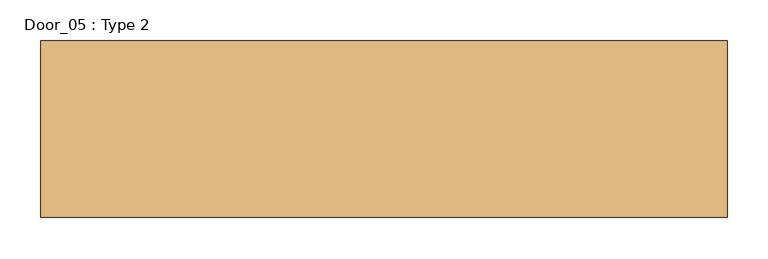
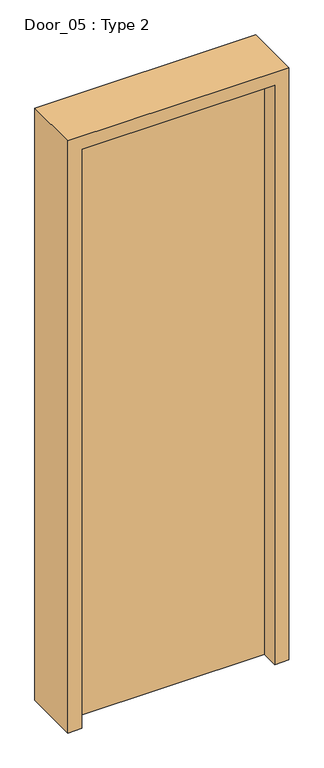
"""IFC4 building model written with IfcOpenShell, lengths in millimetres: door geometry, Door_05 : Type 2."""

from ifc_helpers import new_model, si_unit, frame, origin, origin_with_axes, place, context, project, spatial, polyline, outline, extrude, source, transform, mapped, element, save


def door_05_type_2_e75293e1(model_context):
    return source(origin(), model_context, "Body", "SweptSolid", [
        extrude(outline(polyline([(366.5087813, -40.9955629), (-366.5087813, -40.9955629), (-366.5087813, 9.0044371), (366.5087813, 9.0044371), (366.5087813, -40.9955629)])), origin_with_axes(), (0.0, 0.0, 1.0), 2326.5087813),
        extrude(outline(polyline([(2380.0, -420.0), (0.0, -420.0), (0.0, -366.5087813), (2326.5087813, -366.5087813), (2326.5087813, 366.5087813), (0.0, 366.5087813), (0.0, 420.0), (2380.0, 420.0), (2380.0, -420.0)])), frame((0.0, -108.0, 0.0), z_axis=(0.0, 1.0, 0.0), x_axis=(0.0, 0.0, 1.0)), (0.0, 0.0, 1.0), 216.0),
    ])


if __name__ == "__main__":
    model = new_model("IFC4")
    model_context = context("Model", 3, world=origin())
    ifc_project = project(units=[si_unit("LENGTHUNIT", "METRE", prefix="MILLI")], contexts=[model_context])
    site = spatial("IfcSite", under=ifc_project)
    building = spatial("IfcBuilding", under=site)
    placement = place(None, origin())
    door_05_type_2_shape = door_05_type_2_e75293e1(model_context)
    element("IfcDoor", 1, ObjectType="Door_05 : Type 2", at=placement, inside=building, context=model_context, shape_type="MappedRepresentation", body=[
        mapped(door_05_type_2_shape, transform((0.0, 0.0, 0.0), x_axis=(1.0, 0.0, 0.0), y_axis=(0.0, 1.0, 0.0), z_axis=(0.0, 0.0, 1.0))),
    ])
    save(model, "model.ifc")
